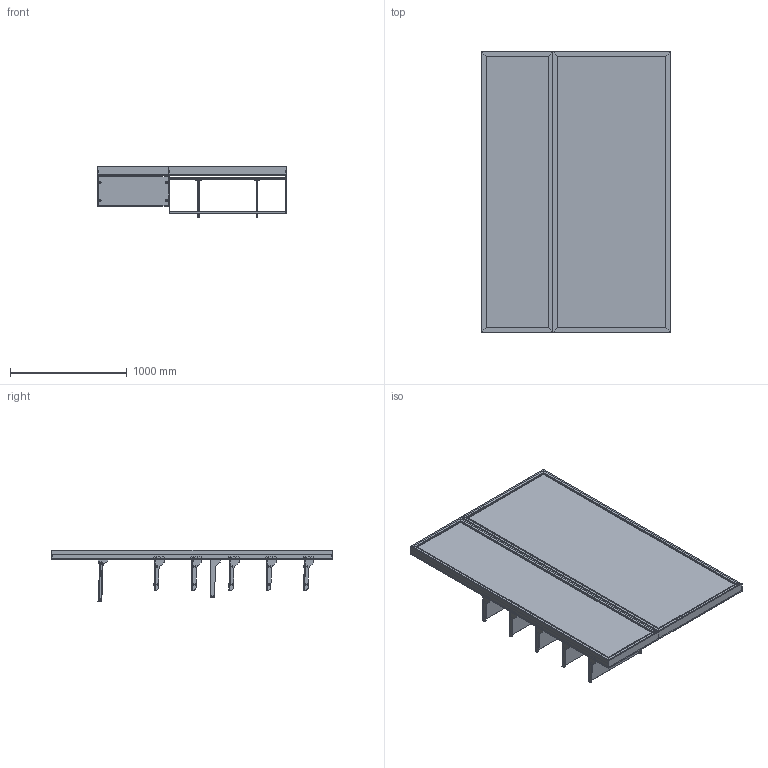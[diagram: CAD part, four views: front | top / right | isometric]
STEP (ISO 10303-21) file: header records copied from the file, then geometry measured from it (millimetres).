
FILE_DESCRIPTION (( 'STEP AP203' ), '1' );
FILE_NAME ('Hybrid Apparel & Glass Footwear Retail Wall (Config 1).STEP', '2026-03-31T10:23:52', ( '' ), ( '' ), 'SwSTEP 2.0', 'SolidWorks 2025', '' );
FILE_SCHEMA (( 'CONFIG_CONTROL_DESIGN' ));
Length unit declared in the file: millimetre
Products named in the file (27): 0001-31-100.STEP; 0001-31-SA29.STEP; 0001-31-131.STEP; 0001-31-SA30.STEP; 0001-31-124.STEP; 0001-31-SA25 - 1005W Side Facing D Rail_Assem9; 0001-31-SA27 - Forward Facing Arm_Assem11; 0001-31-103.STEP; 0001-31-115.STEP; 0001-31-SA26 - 1005W Rear support Bar_Assem8; Heavy-Duty Single Clothing Display Wall (Config 2)_Assem7; Hybrid Apparel & Glass Footwear Retail Wall (Config 1); 0001-31-SA28 - 610W Glass Shelf_Assem5; 0000-31-113.STEP; 0001-31-114.STEP; 0001-31-GA10 - 1005W Slotted upbright; 0001-31-110.STEP; 0001-31-112.STEP; 0001-31-130.STEP; 0001-31-SA26 - 1005W Rear support Bar.STEP; 0001-31-SA27 - Forward Facing Arm.STEP; 0001-31-104.STEP; 0001-31-SA25 - 1005W Side Facing D Rail.STEP; 0001-31-SA28 - 610W Glass Shelf.STEP; Narrow Illuminated Glass Footwear Retail Display_Assem6; 0001-31-123.STEP; 0001-31-GA01 - 610W Slotted Upright
Assembly tree (47 placements, depth 6):
  Hybrid Apparel & Glass Footwear Retail Wall (Config 1)
    Heavy-Duty Single Clothing Display Wall (Config 2)_Assem7
      0001-31-GA10 - 1005W Slotted upbright
      0001-31-SA27 - Forward Facing Arm_Assem11  x2
        0001-31-SA27 - Forward Facing Arm.STEP
          0001-31-104.STEP
          0001-31-112.STEP
          0001-31-110.STEP
      0001-31-SA25 - 1005W Side Facing D Rail_Assem9
        0001-31-SA25 - 1005W Side Facing D Rail.STEP
          0001-31-100.STEP  x2
          0001-31-130.STEP
      0001-31-SA26 - 1005W Rear support Bar_Assem8
        0001-31-SA26 - 1005W Rear support Bar.STEP
          0001-31-103.STEP  x2
          0001-31-131.STEP
    Narrow Illuminated Glass Footwear Retail Display_Assem6
      0001-31-GA01 - 610W Slotted Upright
      0001-31-SA28 - 610W Glass Shelf_Assem5  x5
        0001-31-SA28 - 610W Glass Shelf.STEP
          0001-31-SA29.STEP
            0000-31-113.STEP
            0001-31-114.STEP  x2
          0001-31-SA30.STEP
            0000-31-113.STEP
            0001-31-114.STEP  x2
          0001-31-115.STEP
          0001-31-123.STEP  x8
          0001-31-124.STEP  x4
Bounding box: 1615.49 x 2400 x 436.21 mm (x, y, z)
Volume: 21218760.7 mm3; surface area: 22193902 mm2
Topology: 119 solids, 119 shells, 2822 faces, 7922 edges, 5156 vertices
Faces by surface type: plane 2014, cylinder 728, cone 80
Entity records: 49874 total; most frequent: CARTESIAN_POINT 8988, ORIENTED_EDGE 8498, DIRECTION 6849, EDGE_CURVE 4249, LINE 3891, VECTOR 3891, VERTEX_POINT 2818, EDGE_LOOP 1531
